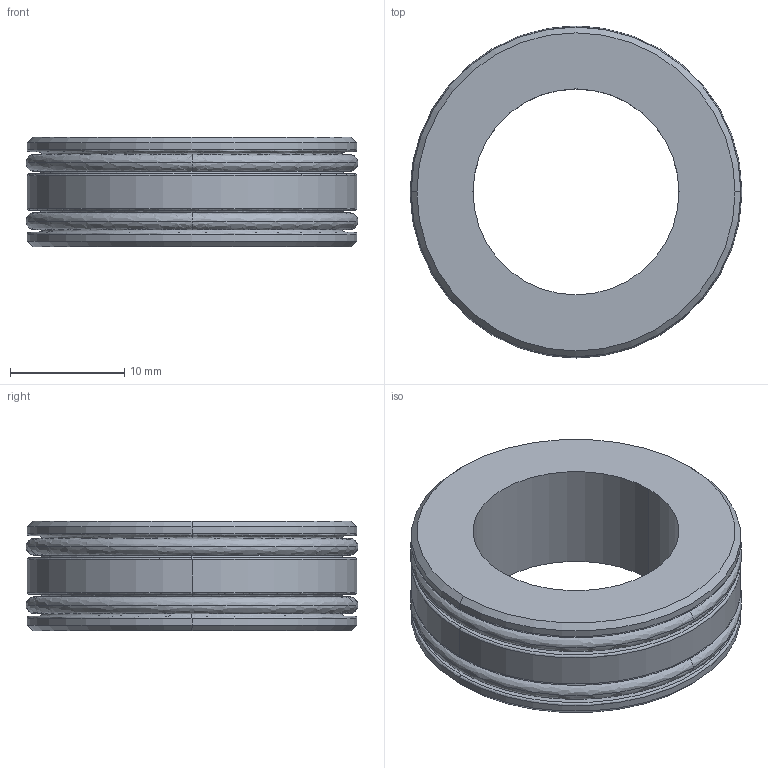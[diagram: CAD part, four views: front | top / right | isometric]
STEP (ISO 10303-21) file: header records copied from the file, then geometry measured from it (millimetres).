
FILE_DESCRIPTION (( 'STEP AP203' ), '1' );
FILE_NAME ('VA00952.STEP', '2016-07-11T08:56:05', ( '' ), ( '' ), 'SwSTEP 2.0', 'SolidWorks 2016', '' );
FILE_SCHEMA (( 'CONFIG_CONTROL_DESIGN' ));
Length unit declared in the file: millimetre
Products named in the file (1): VA00952
Bounding box: 29 x 29 x 9.6 mm (x, y, z)
Volume: 3681.2 mm3; surface area: 3310.4 mm2
Topology: 3 solids, 3 shells, 46 faces, 92 edges, 52 vertices
Faces by surface type: bspline 24, cylinder 12, plane 6, cone 4
Entity records: 2713 total; most frequent: CARTESIAN_POINT 1759, ORIENTED_EDGE 184, DIRECTION 182, EDGE_CURVE 92, AXIS2_PLACEMENT_3D 83, CIRCLE 60, EDGE_LOOP 52, VERTEX_POINT 52
